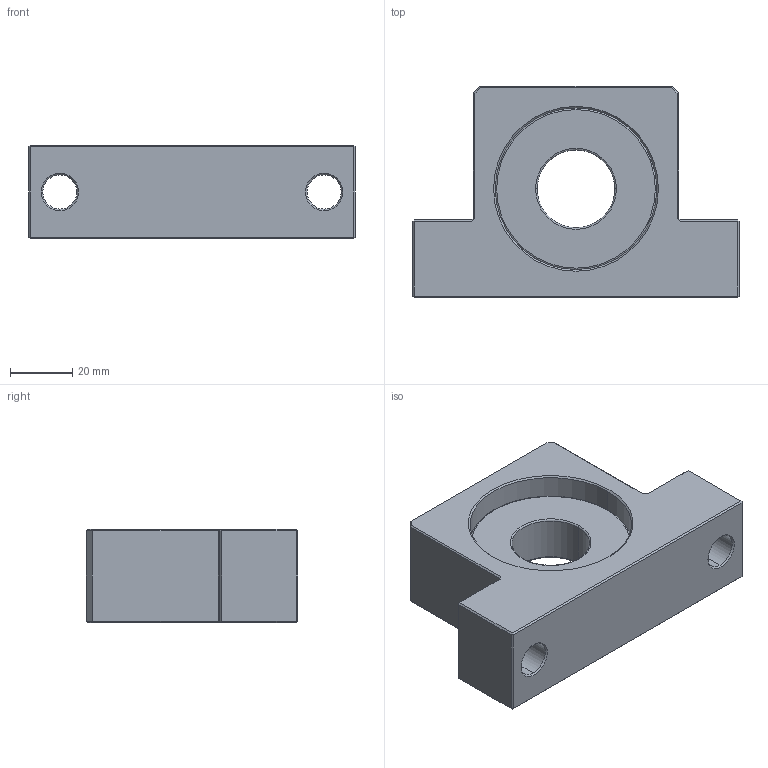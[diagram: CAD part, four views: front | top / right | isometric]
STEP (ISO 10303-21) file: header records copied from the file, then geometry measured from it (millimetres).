
FILE_DESCRIPTION (( 'STEP AP203' ), '1' );
FILE_NAME ('ESGF-25_203.STEP', '2013-02-26T01:33:21', ( '' ), ( '' ), 'SwSTEP 2.0', 'SolidWorks 2012', '' );
FILE_SCHEMA (( 'CONFIG_CONTROL_DESIGN' ));
Length unit declared in the file: millimetre
Products named in the file (1): ESGF-25_203
Bounding box: 105 x 68 x 30 mm (x, y, z)
Volume: 119622.2 mm3; surface area: 25057.1 mm2
Topology: 1 solids, 1 shells, 82 faces, 174 edges, 96 vertices
Faces by surface type: plane 52, cone 12, cylinder 10, torus 8
Entity records: 2215 total; most frequent: DIRECTION 388, CARTESIAN_POINT 353, ORIENTED_EDGE 348, EDGE_CURVE 174, AXIS2_PLACEMENT_3D 131, VECTOR 126, LINE 126, VERTEX_POINT 96
